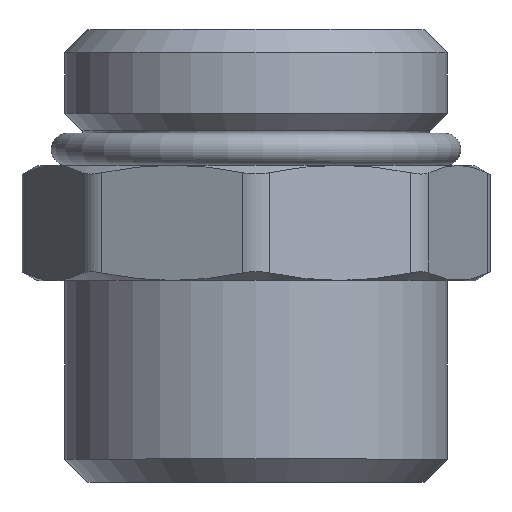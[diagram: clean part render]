
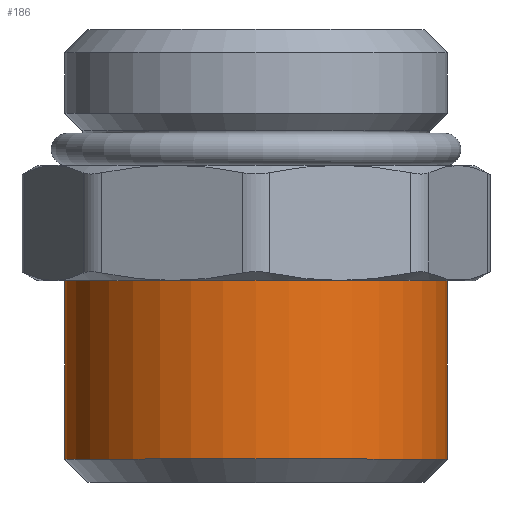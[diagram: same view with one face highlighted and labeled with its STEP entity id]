
A CAD part, top view. The second image highlights one B-rep face of the part: STEP entity #186.
In plain terms, the highlighted cylindrical face has radius 16.625 mm (diameter 33.249 mm), a full revolution.
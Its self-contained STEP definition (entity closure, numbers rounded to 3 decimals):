
#186=ADVANCED_FACE('',(#341,#343),#345,.T.);
#341=FACE_OUTER_BOUND('',#342,.T.);
#342=EDGE_LOOP('',(#1090));
#343=FACE_OUTER_BOUND('',#344,.T.);
#344=EDGE_LOOP('',(#1091));
#345=CYLINDRICAL_SURFACE('',#346,16.625);
#346=AXIS2_PLACEMENT_3D('',#347,#348,#349);
#347=CARTESIAN_POINT('',(0.,-27.5,0.));
#348=DIRECTION('',(0.,1.,0.));
#349=DIRECTION('',(-1.,0.,0.));
#1090=ORIENTED_EDGE('',*,*,#1271,.F.);
#1091=ORIENTED_EDGE('',*,*,#1269,.T.);
#1269=EDGE_CURVE('',#1368,#1368,#1369,.T.);
#1271=EDGE_CURVE('',#1372,#1372,#1373,.T.);
#1368=VERTEX_POINT('',#1542);
#1369=CIRCLE('',#1543,16.625);
#1372=VERTEX_POINT('',#1552);
#1373=CIRCLE('',#1553,16.625);
#1542=CARTESIAN_POINT('',(-16.625,-25.5,0.));
#1543=AXIS2_PLACEMENT_3D('',#1544,#1545,#1546);
#1544=CARTESIAN_POINT('',(0.,-25.5,0.));
#1545=DIRECTION('',(0.,1.,0.));
#1546=DIRECTION('',(-1.,0.,0.));
#1552=CARTESIAN_POINT('',(-16.625,-10.,0.));
#1553=AXIS2_PLACEMENT_3D('',#1554,#1555,#1556);
#1554=CARTESIAN_POINT('',(0.,-10.,0.));
#1555=DIRECTION('',(0.,1.,0.));
#1556=DIRECTION('',(-1.,0.,0.));
